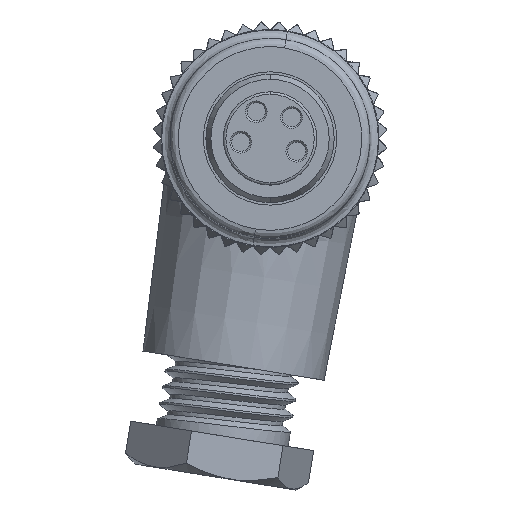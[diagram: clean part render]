
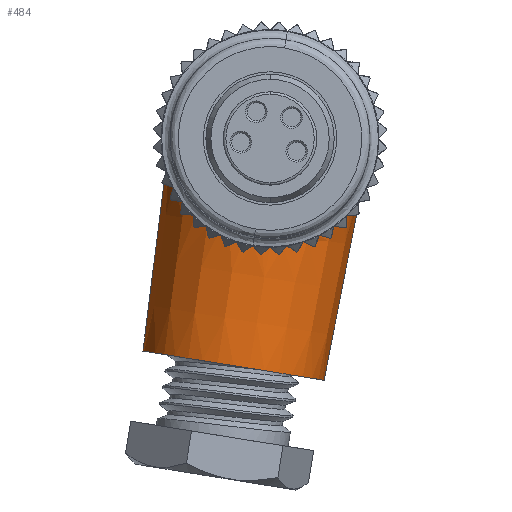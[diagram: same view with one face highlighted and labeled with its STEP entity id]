
A CAD part, front view. The second image highlights one B-rep face of the part: STEP entity #484.
In plain terms, the highlighted conical face has half-angle 2 degrees and reference radius 5.888 mm.
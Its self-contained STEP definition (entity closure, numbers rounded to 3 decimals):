
#96 = LINE ( 'NONE', #581, #8756 ) ;
#364 = CARTESIAN_POINT ( 'NONE',  ( -2.055, 29.673, 17.703 ) ) ;
#484 = ADVANCED_FACE ( 'NONE', ( #5949 ), #8519, .T. ) ;
#541 = DIRECTION ( 'NONE',  ( 0.987, 0., -0.159 ) ) ;
#581 = CARTESIAN_POINT ( 'NONE',  ( -2.046, 29.673, 17.769 ) ) ;
#741 = CARTESIAN_POINT ( 'NONE',  ( 1.948, 24.046, 13.387 ) ) ;
#950 = CARTESIAN_POINT ( 'NONE',  ( 0.085, 24.871, 14.438 ) ) ;
#2004 = CARTESIAN_POINT ( 'NONE',  ( 2.603, 23.941, 13.185 ) ) ;
#2103 = LINE ( 'NONE', #5066, #13340 ) ;
#2217 = CARTESIAN_POINT ( 'NONE',  ( -0.729, 25.642, 15.244 ) ) ;
#2380 = CARTESIAN_POINT ( 'NONE',  ( 4.195, 24.008, 12.991 ) ) ;
#2762 = VERTEX_POINT ( 'NONE', #15527 ) ;
#2961 = CARTESIAN_POINT ( 'NONE',  ( 4.195, 24.008, 12.991 ) ) ;
#3336 = CARTESIAN_POINT ( 'NONE',  ( 1.334, 24.224, 13.65 ) ) ;
#3427 = CARTESIAN_POINT ( 'NONE',  ( 2.001, 29.673, 5.867 ) ) ;
#3444 = CARTESIAN_POINT ( 'NONE',  ( -1.868, 27.949, 17.143 ) ) ;
#3543 = DIRECTION ( 'NONE',  ( 0.159, 0., 0.987 ) ) ;
#3659 = CIRCLE ( 'NONE', #6127, 5.5 ) ;
#3957 = ORIENTED_EDGE ( 'NONE', *, *, #14724, .F. ) ;
#4096 = CARTESIAN_POINT ( 'NONE',  ( 4.562, 24.072, 12.991 ) ) ;
#4212 = CARTESIAN_POINT ( 'NONE',  ( 4.924, 24.17, 13.023 ) ) ;
#4526 = CARTESIAN_POINT ( 'NONE',  ( -1.91, 28.143, 17.257 ) ) ;
#4573 = CARTESIAN_POINT ( 'NONE',  ( 3.05, 23.914, 13.089 ) ) ;
#4681 = CARTESIAN_POINT ( 'NONE',  ( -2.008, 28.768, 17.547 ) ) ;
#5066 = CARTESIAN_POINT ( 'NONE',  ( 9.58, 29.673, 15.897 ) ) ;
#5215 = EDGE_CURVE ( 'NONE', #2762, #14616, #14988, .T. ) ;
#5347 = CARTESIAN_POINT ( 'NONE',  ( 9.567, 29.673, 15.832 ) ) ;
#5514 = DIRECTION ( 'NONE',  ( 0.124, 0., 0.992 ) ) ;
#5520 = CARTESIAN_POINT ( 'NONE',  ( 5.622, 24.421, 13.14 ) ) ;
#5645 = AXIS2_PLACEMENT_3D ( 'NONE', #13048, #9246, #541 ) ;
#5736 = CARTESIAN_POINT ( 'NONE',  ( -1.512, 26.861, 16.364 ) ) ;
#5783 = CARTESIAN_POINT ( 'NONE',  ( 1.14, 24.298, 13.749 ) ) ;
#5949 = FACE_OUTER_BOUND ( 'NONE', #8133, .T. ) ;
#6127 = AXIS2_PLACEMENT_3D ( 'NONE', #3427, #3543, #14669 ) ;
#6565 = CARTESIAN_POINT ( 'NONE',  ( 8.912, 27.318, 15.014 ) ) ;
#6622 = CARTESIAN_POINT ( 'NONE',  ( 9.554, 29.296, 15.812 ) ) ;
#6691 = CARTESIAN_POINT ( 'NONE',  ( 9.323, 28.241, 15.496 ) ) ;
#6880 = VERTEX_POINT ( 'NONE', #364 ) ;
#7059 = CARTESIAN_POINT ( 'NONE',  ( -1.708, 27.388, 16.766 ) ) ;
#7118 = CARTESIAN_POINT ( 'NONE',  ( -1.767, 27.571, 16.897 ) ) ;
#7162 = CARTESIAN_POINT ( 'NONE',  ( -1.062, 26.077, 15.664 ) ) ;
#7559 = CARTESIAN_POINT ( 'NONE',  ( -3.429, 29.673, 6.741 ) ) ;
#8067 = CARTESIAN_POINT ( 'NONE',  ( 8.742, 27.038, 14.839 ) ) ;
#8133 = EDGE_LOOP ( 'NONE', ( #16107, #13860, #9091, #9336, #3957 ) ) ;
#8278 = CARTESIAN_POINT ( 'NONE',  ( 0.768, 24.467, 13.963 ) ) ;
#8292 = CARTESIAN_POINT ( 'NONE',  ( 7.431, 29.673, 4.992 ) ) ;
#8442 = CARTESIAN_POINT ( 'NONE',  ( 2.383, 23.967, 13.245 ) ) ;
#8497 = CARTESIAN_POINT ( 'NONE',  ( -0.606, 25.502, 15.105 ) ) ;
#8519 = CONICAL_SURFACE ( 'NONE', #5645, 5.888, 0.035 ) ;
#8756 = VECTOR ( 'NONE', #5514, 1000. ) ;
#9091 = ORIENTED_EDGE ( 'NONE', *, *, #12090, .T. ) ;
#9097 = DIRECTION ( 'NONE',  ( 0.193, 0., 0.981 ) ) ;
#9108 = CARTESIAN_POINT ( 'NONE',  ( 7.424, 25.537, 13.842 ) ) ;
#9223 = CARTESIAN_POINT ( 'NONE',  ( 8.143, 26.244, 14.32 ) ) ;
#9246 = DIRECTION ( 'NONE',  ( 0.159, 0., 0.987 ) ) ;
#9336 = ORIENTED_EDGE ( 'NONE', *, *, #5215, .F. ) ;
#9548 = CARTESIAN_POINT ( 'NONE',  ( -1.981, 28.552, 17.459 ) ) ;
#9717 = CARTESIAN_POINT ( 'NONE',  ( -2.055, 29.673, 17.703 ) ) ;
#9931 = CARTESIAN_POINT ( 'NONE',  ( 3.968, 23.969, 12.991 ) ) ;
#10376 = CARTESIAN_POINT ( 'NONE',  ( 8.358, 26.502, 14.493 ) ) ;
#10445 = CARTESIAN_POINT ( 'NONE',  ( 5.953, 24.573, 13.225 ) ) ;
#10553 = CARTESIAN_POINT ( 'NONE',  ( 9.503, 28.927, 15.74 ) ) ;
#10621 = CARTESIAN_POINT ( 'NONE',  ( 9.377, 28.408, 15.567 ) ) ;
#10836 = CARTESIAN_POINT ( 'NONE',  ( 3.276, 23.914, 13.052 ) ) ;
#11065 = CARTESIAN_POINT ( 'NONE',  ( 0.589, 24.563, 14.079 ) ) ;
#11925 = CARTESIAN_POINT ( 'NONE',  ( 9.567, 29.673, 15.832 ) ) ;
#12090 = EDGE_CURVE ( 'NONE', #13235, #14616, #2103, .T. ) ;
#12136 = CARTESIAN_POINT ( 'NONE',  ( 1.737, 24.098, 13.47 ) ) ;
#12968 = CARTESIAN_POINT ( 'NONE',  ( 9.467, 28.75, 15.689 ) ) ;
#13048 = CARTESIAN_POINT ( 'NONE',  ( 3.767, 29.673, 16.833 ) ) ;
#13235 = VERTEX_POINT ( 'NONE', #8292 ) ;
#13340 = VECTOR ( 'NONE', #9097, 1000. ) ;
#13341 = CARTESIAN_POINT ( 'NONE',  ( -2.055, 29.438, 17.703 ) ) ;
#13400 = CARTESIAN_POINT ( 'NONE',  ( -0.957, 25.929, 15.524 ) ) ;
#13860 = ORIENTED_EDGE ( 'NONE', *, *, #15099, .T. ) ;
#14125 = CARTESIAN_POINT ( 'NONE',  ( 6.878, 25.117, 13.563 ) ) ;
#14190 = CARTESIAN_POINT ( 'NONE',  ( 9.2, 27.92, 15.343 ) ) ;
#14243 = VERTEX_POINT ( 'NONE', #7559 ) ;
#14245 = CARTESIAN_POINT ( 'NONE',  ( 6.581, 24.921, 13.436 ) ) ;
#14300 = CARTESIAN_POINT ( 'NONE',  ( 9.132, 27.766, 15.263 ) ) ;
#14525 = EDGE_CURVE ( 'NONE', #14243, #6880, #96, .T. ) ;
#14577 = CARTESIAN_POINT ( 'NONE',  ( -2.045, 29.211, 17.669 ) ) ;
#14616 = VERTEX_POINT ( 'NONE', #11925 ) ;
#14669 = DIRECTION ( 'NONE',  ( 0.987, 0., -0.159 ) ) ;
#14724 = EDGE_CURVE ( 'NONE', #6880, #2762, #16222, .T. ) ;
#14988 = B_SPLINE_CURVE_WITH_KNOTS ( 'NONE', 3,
 ( #2961, #4096, #4212, #5520, #10445, #14245, #14125, #9108, #15462, #9223, #10376, #8067, #6565, #14300, #14190, #6691, #10621, #12968, #10553, #6622, #15516, #5347 ),
 .UNSPECIFIED., .F., .F.,
 ( 4, 2, 2, 2, 2, 2, 2, 2, 2, 2, 4 ),
 ( 0.031, 0.032, 0.033, 0.034, 0.035, 0.037, 0.038, 0.038, 0.039, 0.039, 0.04 ),
 .UNSPECIFIED. ) ;
#15099 = EDGE_CURVE ( 'NONE', #14243, #13235, #3659, .T. ) ;
#15462 = CARTESIAN_POINT ( 'NONE',  ( 7.676, 25.762, 13.995 ) ) ;
#15516 = CARTESIAN_POINT ( 'NONE',  ( 9.567, 29.483, 15.832 ) ) ;
#15527 = CARTESIAN_POINT ( 'NONE',  ( 4.195, 24.008, 12.991 ) ) ;
#15844 = CARTESIAN_POINT ( 'NONE',  ( -0.211, 25.107, 14.697 ) ) ;
#15950 = CARTESIAN_POINT ( 'NONE',  ( -1.352, 26.536, 16.084 ) ) ;
#16107 = ORIENTED_EDGE ( 'NONE', *, *, #14525, .F. ) ;
#16174 = CARTESIAN_POINT ( 'NONE',  ( 3.736, 23.941, 13.003 ) ) ;
#16222 = B_SPLINE_CURVE_WITH_KNOTS ( 'NONE', 3,
 ( #9717, #13341, #14577, #4681, #9548, #4526, #3444, #7118, #7059, #5736, #15950, #7162, #13400, #2217, #8497, #15844, #950, #11065, #8278, #5783, #3336, #12136, #741, #8442, #2004, #4573, #10836, #16174, #9931, #2380 ),
 .UNSPECIFIED., .F., .F.,
 ( 4, 2, 2, 2, 2, 2, 2, 2, 2, 2, 2, 2, 2, 2, 4 ),
 ( 0.02, 0.021, 0.021, 0.022, 0.023, 0.024, 0.025, 0.025, 0.027, 0.028, 0.028, 0.029, 0.03, 0.03, 0.031 ),
 .UNSPECIFIED. ) ;
